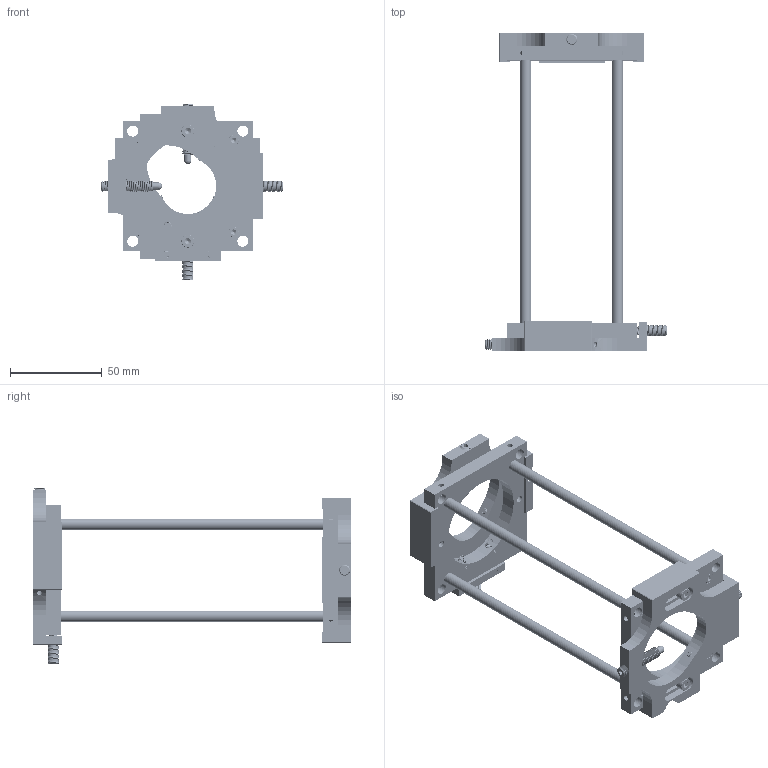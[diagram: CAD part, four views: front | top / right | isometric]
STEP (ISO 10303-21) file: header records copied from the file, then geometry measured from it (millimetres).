
FILE_DESCRIPTION (( 'STEP AP214' ), '1' );
FILE_NAME ('CSJ-TILT_asm.STEP', '2022-06-05T09:13:54', ( '' ), ( '' ), 'SwSTEP 2.0', 'SolidWorks 2021', '' );
FILE_SCHEMA (( 'AUTOMOTIVE_DESIGN' ));
Length unit declared in the file: millimetre
Products named in the file (12): SPACER2; M2X8_HS2; M3X6_HM2; M6X10_HSQ2; 錨璃80; CSJ-TILT_asm; M4X6_HM2; M3X6_HS2; HINI-LASER_A22; M6X16_HS2; HINI-LASER_A12; SPRING_STRETCH_INST2
Assembly tree (42 placements, depth 2):
  CSJ-TILT_asm
    HINI-LASER_A12  x2
    HINI-LASER_A22  x2
    M6X10_HSQ2  x2
    M6X16_HS2  x2
    M2X8_HS2  x8
    SPRING_STRETCH_INST2  x4
    M3X6_HS2  x4
    錨璃80  x4
    SPACER2  x2
    M3X6_HM2  x8
    M4X6_HM2  x4
Bounding box: 98.61 x 173.2 x 96.23 mm (x, y, z)
Volume: 109202.2 mm3; surface area: 66653.8 mm2
Topology: 42 solids, 42 shells, 2132 faces, 5066 edges, 3044 vertices
Faces by surface type: cylinder 878, plane 564, cone 314, bspline 284, torus 88, sphere 4
Entity records: 64716 total; most frequent: CARTESIAN_POINT 46753, ORIENTED_EDGE 4064, DIRECTION 2832, EDGE_CURVE 2032, VERTEX_POINT 1288, AXIS2_PLACEMENT_3D 1079, B_SPLINE_CURVE_WITH_KNOTS 978, EDGE_LOOP 880
